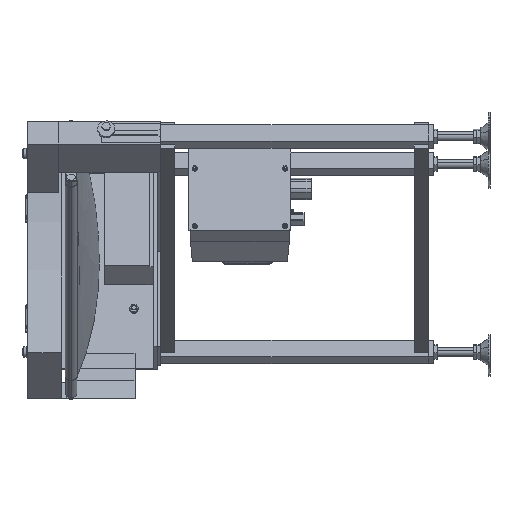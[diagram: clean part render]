
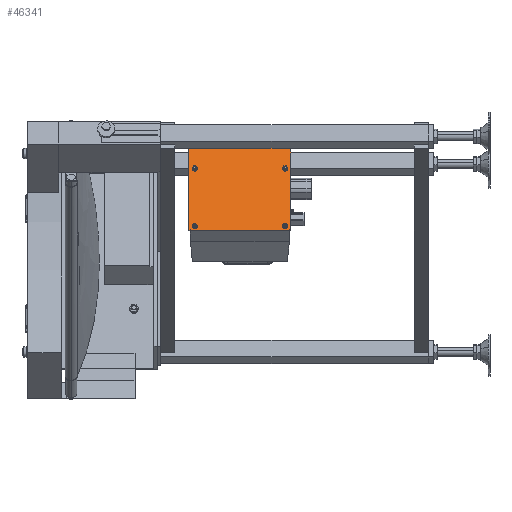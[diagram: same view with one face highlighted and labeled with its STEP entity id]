
A CAD part, left-side view. The second image highlights one B-rep face of the part: STEP entity #46341.
In plain terms, the highlighted planar face has unit normal (-0.924, 0, 0.383).
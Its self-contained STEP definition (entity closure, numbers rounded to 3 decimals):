
#343 = EDGE_CURVE ( 'NONE', #14464, #40097, #35965, .T. ) ;
#395 = CARTESIAN_POINT ( 'NONE',  ( 466.354, -227.5, -186.134 ) ) ;
#499 = CARTESIAN_POINT ( 'NONE',  ( 466.354, -227.5, -186.134 ) ) ;
#577 = DIRECTION ( 'NONE',  ( -0.383, 0., -0.924 ) ) ;
#1360 = DIRECTION ( 'NONE',  ( 0.924, 0., -0.383 ) ) ;
#2203 = EDGE_CURVE ( 'NONE', #6301, #22076, #22883, .T. ) ;
#2627 = DIRECTION ( 'NONE',  ( -0.924, 0., 0.383 ) ) ;
#3125 = CIRCLE ( 'NONE', #14284, 4.5 ) ;
#3155 = ORIENTED_EDGE ( 'NONE', *, *, #36562, .T. ) ;
#3947 = FACE_BOUND ( 'NONE', #9712, .T. ) ;
#4041 = DIRECTION ( 'NONE',  ( 0., 1., 0. ) ) ;
#4222 = CARTESIAN_POINT ( 'NONE',  ( 463.483, -217.5, -193.063 ) ) ;
#4552 = EDGE_CURVE ( 'NONE', #7422, #22296, #11009, .T. ) ;
#4617 = DIRECTION ( 'NONE',  ( -0.383, 0., -0.924 ) ) ;
#5407 = ORIENTED_EDGE ( 'NONE', *, *, #26477, .T. ) ;
#5446 = EDGE_LOOP ( 'NONE', ( #14637, #11951 ) ) ;
#5495 = ORIENTED_EDGE ( 'NONE', *, *, #29240, .T. ) ;
#6035 = ORIENTED_EDGE ( 'NONE', *, *, #29139, .T. ) ;
#6144 = VECTOR ( 'NONE', #12027, 1000. ) ;
#6301 = VERTEX_POINT ( 'NONE', #19625 ) ;
#6334 = AXIS2_PLACEMENT_3D ( 'NONE', #14538, #18466, #18159 ) ;
#6909 = VERTEX_POINT ( 'NONE', #40234 ) ;
#6921 = EDGE_CURVE ( 'NONE', #15516, #6909, #9096, .T. ) ;
#6994 = EDGE_CURVE ( 'NONE', #19008, #43755, #36141, .T. ) ;
#7422 = VERTEX_POINT ( 'NONE', #21249 ) ;
#7577 = EDGE_CURVE ( 'NONE', #40097, #14464, #9107, .T. ) ;
#7767 = AXIS2_PLACEMENT_3D ( 'NONE', #9353, #2627, #16784 ) ;
#7862 = CARTESIAN_POINT ( 'NONE',  ( 506.727, -387.5, -88.665 ) ) ;
#8670 = DIRECTION ( 'NONE',  ( 0.924, 0., -0.383 ) ) ;
#8775 = ORIENTED_EDGE ( 'NONE', *, *, #4552, .T. ) ;
#9096 = LINE ( 'NONE', #18361, #29321 ) ;
#9107 = CIRCLE ( 'NONE', #44320, 4.5 ) ;
#9353 = CARTESIAN_POINT ( 'NONE',  ( 463.483, -397.5, -193.063 ) ) ;
#9594 = EDGE_CURVE ( 'NONE', #15516, #19008, #17361, .T. ) ;
#9712 = EDGE_LOOP ( 'NONE', ( #5407, #19341 ) ) ;
#9895 = VECTOR ( 'NONE', #4041, 1000. ) ;
#10683 = FACE_BOUND ( 'NONE', #38276, .T. ) ;
#11009 = CIRCLE ( 'NONE', #12519, 4.5 ) ;
#11251 = CARTESIAN_POINT ( 'NONE',  ( 526.626, -397.5, -40.623 ) ) ;
#11433 = DIRECTION ( 'NONE',  ( 0.383, 0., 0.924 ) ) ;
#11951 = ORIENTED_EDGE ( 'NONE', *, *, #343, .T. ) ;
#12027 = DIRECTION ( 'NONE',  ( 0., 1., 0. ) ) ;
#12056 = CARTESIAN_POINT ( 'NONE',  ( 510.171, -387.5, -80.35 ) ) ;
#12369 = FACE_BOUND ( 'NONE', #5446, .T. ) ;
#12374 = CARTESIAN_POINT ( 'NONE',  ( 508.449, -227.5, -84.508 ) ) ;
#12519 = AXIS2_PLACEMENT_3D ( 'NONE', #41145, #22525, #29884 ) ;
#14284 = AXIS2_PLACEMENT_3D ( 'NONE', #499, #18757, #29533 ) ;
#14439 = AXIS2_PLACEMENT_3D ( 'NONE', #14900, #40091, #577 ) ;
#14464 = VERTEX_POINT ( 'NONE', #12056 ) ;
#14538 = CARTESIAN_POINT ( 'NONE',  ( 508.449, -387.5, -84.508 ) ) ;
#14637 = ORIENTED_EDGE ( 'NONE', *, *, #7577, .T. ) ;
#14900 = CARTESIAN_POINT ( 'NONE',  ( 508.449, -227.5, -84.508 ) ) ;
#15420 = CARTESIAN_POINT ( 'NONE',  ( 466.354, -387.5, -186.134 ) ) ;
#15516 = VERTEX_POINT ( 'NONE', #20184 ) ;
#15872 = DIRECTION ( 'NONE',  ( -0.383, 0., -0.924 ) ) ;
#16784 = DIRECTION ( 'NONE',  ( 0.383, 0., 0.924 ) ) ;
#17361 = LINE ( 'NONE', #29899, #6144 ) ;
#18159 = DIRECTION ( 'NONE',  ( -0.383, 0., -0.924 ) ) ;
#18361 = CARTESIAN_POINT ( 'NONE',  ( 463.483, -397.5, -193.063 ) ) ;
#18466 = DIRECTION ( 'NONE',  ( 0.924, 0., -0.383 ) ) ;
#18757 = DIRECTION ( 'NONE',  ( 0.924, 0., -0.383 ) ) ;
#19008 = VERTEX_POINT ( 'NONE', #45303 ) ;
#19248 = CIRCLE ( 'NONE', #14439, 4.5 ) ;
#19341 = ORIENTED_EDGE ( 'NONE', *, *, #2203, .T. ) ;
#19625 = CARTESIAN_POINT ( 'NONE',  ( 468.076, -227.5, -181.977 ) ) ;
#20052 = CARTESIAN_POINT ( 'NONE',  ( 506.727, -227.5, -88.665 ) ) ;
#20184 = CARTESIAN_POINT ( 'NONE',  ( 463.483, -397.5, -193.063 ) ) ;
#21249 = CARTESIAN_POINT ( 'NONE',  ( 468.076, -387.5, -181.977 ) ) ;
#21483 = CARTESIAN_POINT ( 'NONE',  ( 526.626, -217.5, -40.623 ) ) ;
#21887 = EDGE_LOOP ( 'NONE', ( #40083, #43306, #45706, #45410 ) ) ;
#22076 = VERTEX_POINT ( 'NONE', #38619 ) ;
#22296 = VERTEX_POINT ( 'NONE', #40341 ) ;
#22525 = DIRECTION ( 'NONE',  ( 0.924, 0., -0.383 ) ) ;
#22804 = AXIS2_PLACEMENT_3D ( 'NONE', #15420, #30124, #15872 ) ;
#22883 = CIRCLE ( 'NONE', #25632, 4.5 ) ;
#24138 = PLANE ( 'NONE',  #7767 ) ;
#25073 = DIRECTION ( 'NONE',  ( 0.924, 0., -0.383 ) ) ;
#25588 = EDGE_CURVE ( 'NONE', #6909, #43755, #38079, .T. ) ;
#25632 = AXIS2_PLACEMENT_3D ( 'NONE', #395, #25073, #32748 ) ;
#26477 = EDGE_CURVE ( 'NONE', #22076, #6301, #3125, .T. ) ;
#28133 = CARTESIAN_POINT ( 'NONE',  ( 510.171, -227.5, -80.35 ) ) ;
#28456 = VERTEX_POINT ( 'NONE', #28133 ) ;
#28642 = FACE_OUTER_BOUND ( 'NONE', #21887, .T. ) ;
#29139 = EDGE_CURVE ( 'NONE', #28456, #34723, #19248, .T. ) ;
#29240 = EDGE_CURVE ( 'NONE', #34723, #28456, #38959, .T. ) ;
#29321 = VECTOR ( 'NONE', #32465, 1000. ) ;
#29533 = DIRECTION ( 'NONE',  ( -0.383, 0., -0.924 ) ) ;
#29884 = DIRECTION ( 'NONE',  ( -0.383, 0., -0.924 ) ) ;
#29899 = CARTESIAN_POINT ( 'NONE',  ( 463.483, -397.5, -193.063 ) ) ;
#30124 = DIRECTION ( 'NONE',  ( 0.924, 0., -0.383 ) ) ;
#30166 = CARTESIAN_POINT ( 'NONE',  ( 508.449, -387.5, -84.508 ) ) ;
#30787 = CIRCLE ( 'NONE', #22804, 4.5 ) ;
#32465 = DIRECTION ( 'NONE',  ( 0.383, 0., 0.924 ) ) ;
#32748 = DIRECTION ( 'NONE',  ( -0.383, 0., -0.924 ) ) ;
#33322 = VECTOR ( 'NONE', #11433, 1000. ) ;
#34723 = VERTEX_POINT ( 'NONE', #20052 ) ;
#35965 = CIRCLE ( 'NONE', #6334, 4.5 ) ;
#35978 = FACE_BOUND ( 'NONE', #37796, .T. ) ;
#36141 = LINE ( 'NONE', #4222, #33322 ) ;
#36562 = EDGE_CURVE ( 'NONE', #22296, #7422, #30787, .T. ) ;
#37200 = DIRECTION ( 'NONE',  ( -0.383, 0., -0.924 ) ) ;
#37796 = EDGE_LOOP ( 'NONE', ( #5495, #6035 ) ) ;
#38079 = LINE ( 'NONE', #11251, #9895 ) ;
#38276 = EDGE_LOOP ( 'NONE', ( #3155, #8775 ) ) ;
#38619 = CARTESIAN_POINT ( 'NONE',  ( 464.631, -227.5, -190.292 ) ) ;
#38959 = CIRCLE ( 'NONE', #42800, 4.5 ) ;
#40083 = ORIENTED_EDGE ( 'NONE', *, *, #6994, .F. ) ;
#40091 = DIRECTION ( 'NONE',  ( 0.924, 0., -0.383 ) ) ;
#40097 = VERTEX_POINT ( 'NONE', #7862 ) ;
#40234 = CARTESIAN_POINT ( 'NONE',  ( 526.626, -397.5, -40.623 ) ) ;
#40341 = CARTESIAN_POINT ( 'NONE',  ( 464.631, -387.5, -190.292 ) ) ;
#41145 = CARTESIAN_POINT ( 'NONE',  ( 466.354, -387.5, -186.134 ) ) ;
#42800 = AXIS2_PLACEMENT_3D ( 'NONE', #12374, #1360, #37200 ) ;
#43306 = ORIENTED_EDGE ( 'NONE', *, *, #9594, .F. ) ;
#43755 = VERTEX_POINT ( 'NONE', #21483 ) ;
#44320 = AXIS2_PLACEMENT_3D ( 'NONE', #30166, #8670, #4617 ) ;
#45303 = CARTESIAN_POINT ( 'NONE',  ( 463.483, -217.5, -193.063 ) ) ;
#45410 = ORIENTED_EDGE ( 'NONE', *, *, #25588, .T. ) ;
#45706 = ORIENTED_EDGE ( 'NONE', *, *, #6921, .T. ) ;
#46341 = ADVANCED_FACE ( 'NONE', ( #10683, #12369, #3947, #35978, #28642 ), #24138, .T. ) ;
